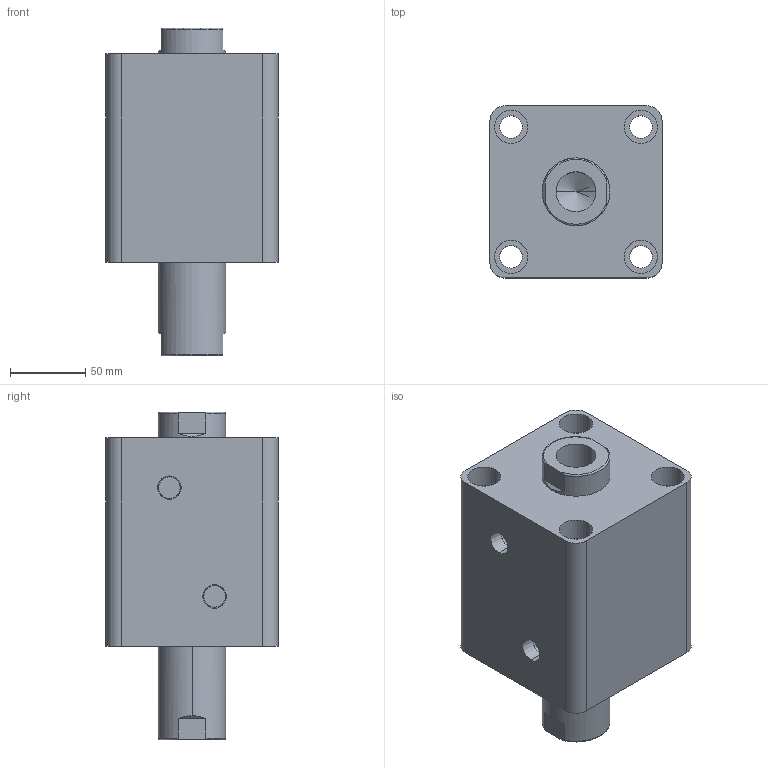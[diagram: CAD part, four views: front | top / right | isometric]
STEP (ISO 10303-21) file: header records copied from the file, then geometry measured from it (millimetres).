
FILE_DESCRIPTION (( 'STEP AP203' ), '1' );
FILE_NAME ('HTB-SW80-45N.STEP', '2019-10-07T10:22:36', ( '微软用户' ), ( '微软中国' ), 'SwSTEP 2.0', 'SolidWorks 2012', '' );
FILE_SCHEMA (( 'CONFIG_CONTROL_DESIGN' ));
Length unit declared in the file: millimetre
Products named in the file (3): HTB-SW80-45N; HTB-SW80-45N活塞杆; HTB-SW80-45掛极
Assembly tree (2 placements, depth 2):
  HTB-SW80-45N
    HTB-SW80-45掛极
    HTB-SW80-45N活塞杆
Bounding box: 114 x 114 x 217 mm (x, y, z)
Volume: 1594598.1 mm3; surface area: 194587.3 mm2
Topology: 2 solids, 2 shells, 100 faces, 228 edges, 146 vertices
Faces by surface type: cylinder 48, plane 32, torus 12, cone 8
Entity records: 3237 total; most frequent: CARTESIAN_POINT 595, DIRECTION 542, ORIENTED_EDGE 448, AXIS2_PLACEMENT_3D 229, EDGE_CURVE 224, VERTEX_POINT 146, EDGE_LOOP 128, CIRCLE 124
